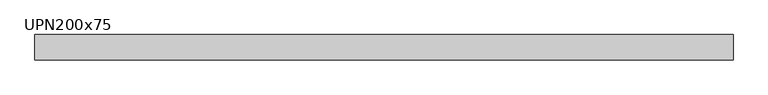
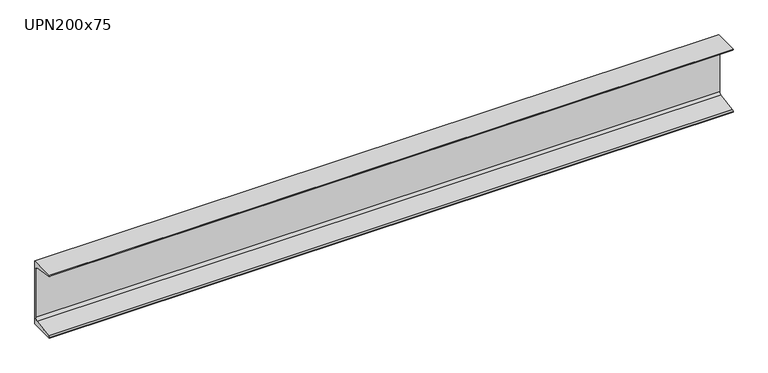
"""IFC4 building model written with IfcOpenShell, lengths in millimetres: beam geometry, M_MC Shapes : UPN200x75."""

from ifc_helpers import new_model, si_unit, point, frame, frame_2d, origin, place, context, project, spatial, polyline, circle_curve, trimmed, segment, composite_curve, outline, extrude, source, transform, mapped, element, save


def upn200x75_5a3f8982(model_context):
    return source(origin(), model_context, "Body", "SweptSolid", [
        extrude(outline(composite_curve([segment(polyline([(10.9, 100.0), (10.9, -100.0), (-64.1, -100.0), (-64.1, -99.0253247)]), True, "CONTINUOUS"), segment(trimmed(circle_curve(frame_2d((-60.15, -99.0253247)), 3.95), [point((-64.1, -99.0253247))], [point((-60.7993773, -95.1290689))], False, "CARTESIAN"), True, "CONTINUOUS"), segment(polyline([(-60.7993773, -95.1290689), (-0.2512455, -85.0376935)]), True, "CONTINUOUS"), segment(trimmed(circle_curve(frame_2d((-1.55, -77.2451819)), 7.9), [point((-0.2512455, -85.0376935))], [point((6.35, -77.2451819))], True, "CARTESIAN"), True, "CONTINUOUS"), segment(polyline([(6.35, -77.2451819), (6.35, 77.2451819)]), True, "CONTINUOUS"), segment(trimmed(circle_curve(frame_2d((-1.55, 77.2451819)), 7.9), [point((6.35, 77.2451819))], [point((-0.2512455, 85.0376935))], True, "CARTESIAN"), True, "CONTINUOUS"), segment(polyline([(-0.2512455, 85.0376935), (-60.7993773, 95.1290689)]), True, "CONTINUOUS"), segment(trimmed(circle_curve(frame_2d((-60.15, 99.0253247)), 3.95), [point((-60.7993773, 95.1290689))], [point((-64.1, 99.0253247))], False, "CARTESIAN"), True, "CONTINUOUS"), segment(polyline([(-64.1, 99.0253247), (-64.1, 100.0), (10.9, 100.0)]), True, "CONTINUOUS")], self_intersect=False)), frame((-1028.55, 0.0, 0.0), z_axis=(1.0, 0.0, 0.0), x_axis=(0.0, 1.0, 0.0)), (0.0, 0.0, 1.0), 2057.1),
    ])


if __name__ == "__main__":
    model = new_model("IFC4")
    model_context = context("Model", 3, world=origin())
    ifc_project = project(units=[si_unit("LENGTHUNIT", "METRE", prefix="MILLI")], contexts=[model_context])
    site = spatial("IfcSite", under=ifc_project)
    building = spatial("IfcBuilding", under=site)
    placement = place(None, origin())
    upn200x75_shape = upn200x75_5a3f8982(model_context)
    element("IfcBeam", 1, ObjectType="M_MC Shapes : UPN200x75", at=placement, inside=building, context=model_context, shape_type="MappedRepresentation", body=[
        mapped(upn200x75_shape, transform((0.0, 0.0, 0.0), x_axis=(1.0, 0.0, 0.0), y_axis=(0.0, 1.0, 0.0), z_axis=(0.0, 0.0, 1.0))),
    ])
    save(model, "model.ifc")
